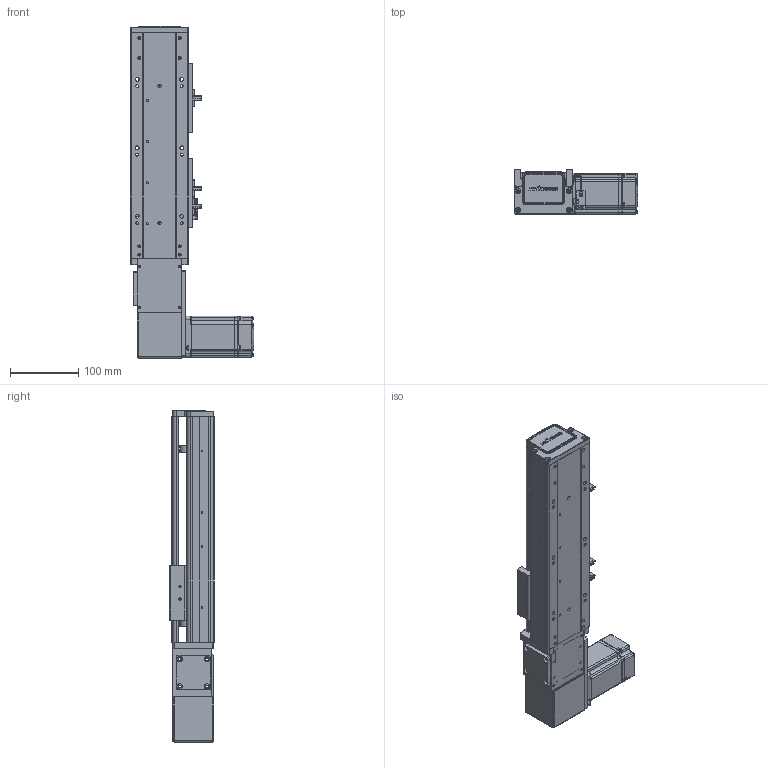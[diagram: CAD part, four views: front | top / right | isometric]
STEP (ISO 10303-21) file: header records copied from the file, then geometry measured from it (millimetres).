
FILE_DESCRIPTION (( 'STEP AP203' ), '1' );
FILE_NAME ('RY80-T-300-RK.SLDASM_150.step', '2021-03-01T02:06:19', ( '盈信电脑' ), ( '东莞市道滘镇水果街19号' ), 'SwSTEP 2.0', 'SolidWorks 2012', '' );
FILE_SCHEMA (( 'CONFIG_CONTROL_DESIGN' ));
Products named in the file (20): RY80-T肮祭謫俋欶; RY80-T-300-RK.SLDASM_150; 滅袉蝶18-10; RY100-T粣創揤踡裔; RY80-T肮祭湍揤輸2; RY80-T粣創揤踡輸; RY80-T翋肮祭謫裔啣; RY80-T-M4蹟翐; RY80-T萇儂假蚾啣; RY80-T-翋肮祭謫釱; RY80-T肮祭湍揤輸1; 侂狟200W萇儂; RY80俋离覜茼え; 覜茼ん672; 1; RY80-T-300-RK倰第奻裔啣_150; RY80-T綴裔啣; RY80-T肮祭謫臏賑輸; 672嫖萇羲壽假蚾釱; RY80-T-300-RK倰第菁釱_150
Assembly tree (25 placements, depth 3):
  RY80-T-300-RK.SLDASM_150
    RY80-T-300-RK倰第菁釱_150
    RY80-T肮祭謫臏賑輸
    RY80-T-300-RK倰第奻裔啣_150
    RY80-T綴裔啣
    672嫖萇羲壽假蚾釱  x2
    覜茼ん672  x3
    RY80俋离覜茼え
    侂狟200W萇儂
      1
    RY80-T-翋肮祭謫釱
    RY80-T萇儂假蚾啣
    RY80-T肮祭湍揤輸1
    RY80-T肮祭湍揤輸2
    RY80-T粣創揤踡輸
    RY80-T-M4蹟翐  x2
    RY80-T翋肮祭謫裔啣  x2
    RY80-T肮祭謫俋欶
    滅袉蝶18-10  x2
    RY100-T粣創揤踡裔
Bounding box: 180 x 65 x 485 mm (x, y, z)
Volume: 1093448.5 mm3; surface area: 419717.7 mm2
Topology: 24 solids, 24 shells, 2319 faces, 6338 edges, 4115 vertices
Faces by surface type: plane 1300, cylinder 818, cone 145, bspline 56
Entity records: 71014 total; most frequent: CARTESIAN_POINT 16129, ORIENTED_EDGE 11120, DIRECTION 10650, EDGE_CURVE 5560, VERTEX_POINT 3656, LINE 3584, VECTOR 3584, AXIS2_PLACEMENT_3D 3533
